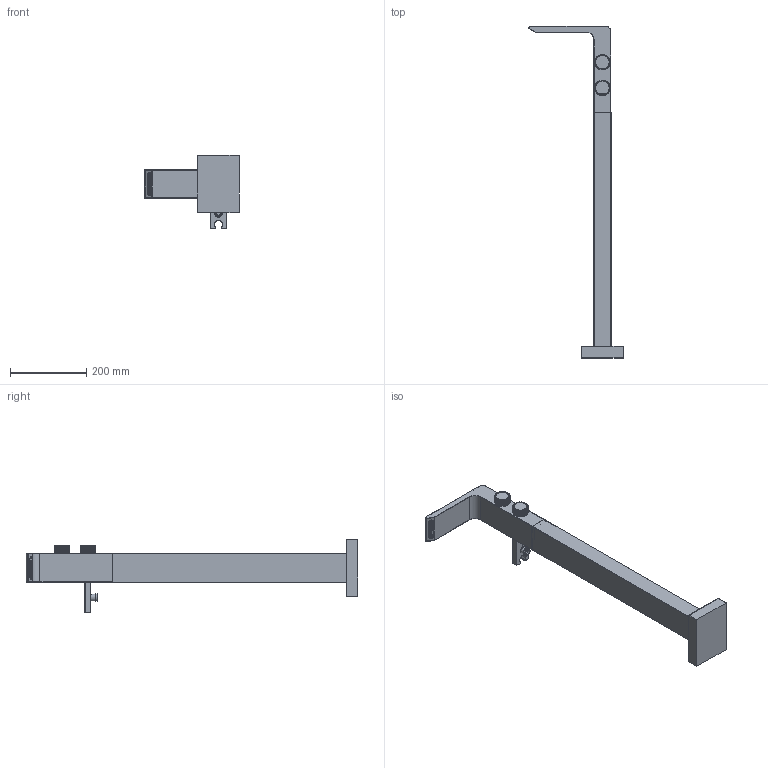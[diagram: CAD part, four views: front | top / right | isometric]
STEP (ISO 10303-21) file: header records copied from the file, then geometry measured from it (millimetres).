
FILE_DESCRIPTION((''),'2;1');
FILE_NAME('136D10011CP-FEU06_ASM','2024-05-21T',('zc'),(''),'CREO PARAMETRIC BY PTC INC, 2015480','CREO PARAMETRIC BY PTC INC, 2015480','');
FILE_SCHEMA(('AUTOMOTIVE_DESIGN { 1 0 10303 214 1 1 1 1 }'));
Products named in the file (19): 40BV10209NT; 40JH40634NT; 40BV30109CP_ASM; 40CH40350NT_AF0; 40JH40782NT_AF0; 40CH30109CP_ASM; 40UF40341CP; 40HD40146CP; 40UF40342CP; 40DV90004NT; 40EQ60049CP; ASM0001_ASM; 40BN40005CP; 40JL41619CP; 40LD90060NT; 40LD90042NT; 40BN40002CP-00_ASM; 40AL70065NT-WRAS; 136D10011CP-FEU06_ASM
Assembly tree (23 placements, depth 3):
  136D10011CP-FEU06_ASM
    40BV30109CP_ASM
      40BV10209NT
      40JH40634NT
    40CH30109CP_ASM
      40CH40350NT_AF0
      40JH40782NT_AF0
    40UF40341CP  x2
    40HD40146CP  x2
    40UF40342CP  x2
    40DV90004NT
    ASM0001_ASM
      40EQ60049CP
    40BN40002CP-00_ASM
      40BN40005CP
      40JL41619CP
      40LD90060NT  x2
      40LD90042NT  x2
    40AL70065NT-WRAS
Bounding box: 248.5 x 869.5 x 192.35 mm (x, y, z)
Volume: 2838128.9 mm3; surface area: 423968.9 mm2
Topology: 19 solids, 19 shells, 1891 faces, 4698 edges, 3027 vertices
Faces by surface type: bspline 696, plane 510, cylinder 506, cone 117, torus 46, sphere 16
Entity records: 55114 total; most frequent: CARTESIAN_POINT 26299, ORIENTED_EDGE 5828, DIRECTION 5044, EDGE_CURVE 2914, AXIS2_PLACEMENT_3D 2011, VERTEX_POINT 1861, EDGE_LOOP 1339, FACE_OUTER_BOUND 1197
